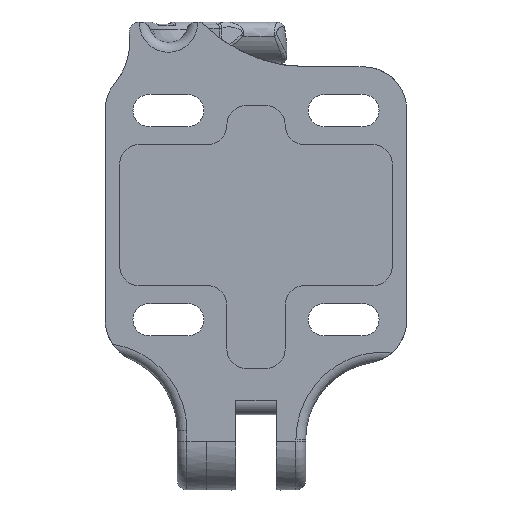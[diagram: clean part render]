
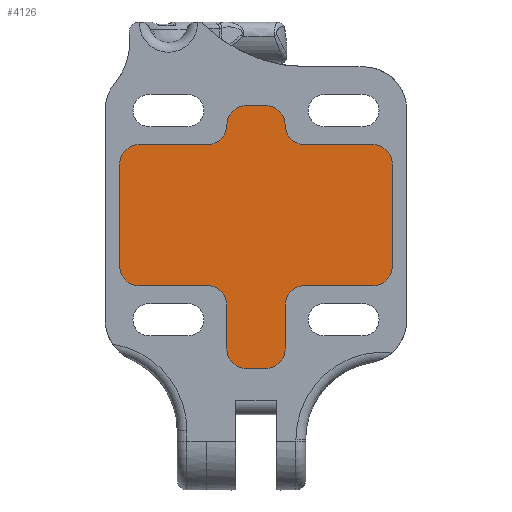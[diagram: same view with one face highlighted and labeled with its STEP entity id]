
A CAD part, front view. The second image highlights one B-rep face of the part: STEP entity #4126.
In plain terms, the highlighted planar face has unit normal (0, -1, 0).
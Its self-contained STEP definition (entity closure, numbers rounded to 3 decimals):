
#3946=AXIS2_PLACEMENT_3D('Plane Axis2P3D',#3943,#3944,#3945) ;
#3950=AXIS2_PLACEMENT_3D('Circle Axis2P3D',#3948,#3949,$) ;
#3966=AXIS2_PLACEMENT_3D('Circle Axis2P3D',#3964,#3965,$) ;
#3973=AXIS2_PLACEMENT_3D('Circle Axis2P3D',#3971,#3972,$) ;
#3987=AXIS2_PLACEMENT_3D('Circle Axis2P3D',#3985,#3986,$) ;
#3994=AXIS2_PLACEMENT_3D('Circle Axis2P3D',#3992,#3993,$) ;
#4008=AXIS2_PLACEMENT_3D('Circle Axis2P3D',#4006,#4007,$) ;
#4022=AXIS2_PLACEMENT_3D('Circle Axis2P3D',#4020,#4021,$) ;
#4036=AXIS2_PLACEMENT_3D('Circle Axis2P3D',#4034,#4035,$) ;
#4050=AXIS2_PLACEMENT_3D('Circle Axis2P3D',#4048,#4049,$) ;
#4064=AXIS2_PLACEMENT_3D('Circle Axis2P3D',#4062,#4063,$) ;
#4078=AXIS2_PLACEMENT_3D('Circle Axis2P3D',#4076,#4077,$) ;
#4092=AXIS2_PLACEMENT_3D('Circle Axis2P3D',#4090,#4091,$) ;
#3943=CARTESIAN_POINT('Axis2P3D Location',(0.,-6.5,0.)) ;
#3948=CARTESIAN_POINT('Axis2P3D Location',(12.,-6.5,28.5)) ;
#3952=CARTESIAN_POINT('Vertex',(14.,-6.5,28.5)) ;
#3954=CARTESIAN_POINT('Vertex',(12.,-6.5,30.5)) ;
#3957=CARTESIAN_POINT('Line Origine',(8.5,-6.5,30.5)) ;
#3961=CARTESIAN_POINT('Vertex',(5.,-6.5,30.5)) ;
#3964=CARTESIAN_POINT('Axis2P3D Location',(5.,-6.5,32.5)) ;
#3968=CARTESIAN_POINT('Vertex',(3.,-6.5,32.5)) ;
#3971=CARTESIAN_POINT('Axis2P3D Location',(1.,-6.5,32.5)) ;
#3975=CARTESIAN_POINT('Vertex',(1.,-6.5,34.5)) ;
#3978=CARTESIAN_POINT('Line Origine',(0.,-6.5,34.5)) ;
#3982=CARTESIAN_POINT('Vertex',(-1.,-6.5,34.5)) ;
#3985=CARTESIAN_POINT('Axis2P3D Location',(-1.,-6.5,32.5)) ;
#3989=CARTESIAN_POINT('Vertex',(-3.,-6.5,32.5)) ;
#3992=CARTESIAN_POINT('Axis2P3D Location',(-5.,-6.5,32.5)) ;
#3996=CARTESIAN_POINT('Vertex',(-5.,-6.5,30.5)) ;
#3999=CARTESIAN_POINT('Line Origine',(-8.5,-6.5,30.5)) ;
#4003=CARTESIAN_POINT('Vertex',(-12.,-6.5,30.5)) ;
#4006=CARTESIAN_POINT('Axis2P3D Location',(-12.,-6.5,28.5)) ;
#4010=CARTESIAN_POINT('Vertex',(-14.,-6.5,28.5)) ;
#4013=CARTESIAN_POINT('Line Origine',(-14.,-6.5,23.25)) ;
#4017=CARTESIAN_POINT('Vertex',(-14.,-6.5,18.)) ;
#4020=CARTESIAN_POINT('Axis2P3D Location',(-12.,-6.5,18.)) ;
#4024=CARTESIAN_POINT('Vertex',(-12.,-6.5,16.)) ;
#4027=CARTESIAN_POINT('Line Origine',(-8.5,-6.5,16.)) ;
#4031=CARTESIAN_POINT('Vertex',(-5.,-6.5,16.)) ;
#4034=CARTESIAN_POINT('Axis2P3D Location',(-5.,-6.5,14.)) ;
#4038=CARTESIAN_POINT('Vertex',(-3.,-6.5,14.)) ;
#4041=CARTESIAN_POINT('Line Origine',(-3.,-6.5,11.75)) ;
#4045=CARTESIAN_POINT('Vertex',(-3.,-6.5,9.5)) ;
#4048=CARTESIAN_POINT('Axis2P3D Location',(-1.,-6.5,9.5)) ;
#4052=CARTESIAN_POINT('Vertex',(-1.,-6.5,7.5)) ;
#4055=CARTESIAN_POINT('Line Origine',(0.,-6.5,7.5)) ;
#4059=CARTESIAN_POINT('Vertex',(1.,-6.5,7.5)) ;
#4062=CARTESIAN_POINT('Axis2P3D Location',(1.,-6.5,9.5)) ;
#4066=CARTESIAN_POINT('Vertex',(3.,-6.5,9.5)) ;
#4069=CARTESIAN_POINT('Line Origine',(3.,-6.5,11.75)) ;
#4073=CARTESIAN_POINT('Vertex',(3.,-6.5,14.)) ;
#4076=CARTESIAN_POINT('Axis2P3D Location',(5.,-6.5,14.)) ;
#4080=CARTESIAN_POINT('Vertex',(5.,-6.5,16.)) ;
#4083=CARTESIAN_POINT('Line Origine',(8.5,-6.5,16.)) ;
#4087=CARTESIAN_POINT('Vertex',(12.,-6.5,16.)) ;
#4090=CARTESIAN_POINT('Axis2P3D Location',(12.,-6.5,18.)) ;
#4094=CARTESIAN_POINT('Vertex',(14.,-6.5,18.)) ;
#4097=CARTESIAN_POINT('Line Origine',(14.,-6.5,23.25)) ;
#3944=DIRECTION('Axis2P3D Direction',(0.,-1.,0.)) ;
#3945=DIRECTION('Axis2P3D XDirection',(1.,0.,0.)) ;
#3949=DIRECTION('Axis2P3D Direction',(0.,-1.,0.)) ;
#3958=DIRECTION('Vector Direction',(1.,0.,0.)) ;
#3965=DIRECTION('Axis2P3D Direction',(0.,-1.,0.)) ;
#3972=DIRECTION('Axis2P3D Direction',(0.,-1.,0.)) ;
#3979=DIRECTION('Vector Direction',(1.,0.,0.)) ;
#3986=DIRECTION('Axis2P3D Direction',(0.,-1.,0.)) ;
#3993=DIRECTION('Axis2P3D Direction',(0.,-1.,0.)) ;
#4000=DIRECTION('Vector Direction',(1.,0.,0.)) ;
#4007=DIRECTION('Axis2P3D Direction',(0.,-1.,0.)) ;
#4014=DIRECTION('Vector Direction',(0.,0.,1.)) ;
#4021=DIRECTION('Axis2P3D Direction',(0.,-1.,0.)) ;
#4028=DIRECTION('Vector Direction',(-1.,0.,0.)) ;
#4035=DIRECTION('Axis2P3D Direction',(0.,-1.,0.)) ;
#4042=DIRECTION('Vector Direction',(0.,0.,1.)) ;
#4049=DIRECTION('Axis2P3D Direction',(0.,-1.,0.)) ;
#4056=DIRECTION('Vector Direction',(-1.,0.,0.)) ;
#4063=DIRECTION('Axis2P3D Direction',(0.,-1.,0.)) ;
#4070=DIRECTION('Vector Direction',(0.,0.,-1.)) ;
#4077=DIRECTION('Axis2P3D Direction',(0.,-1.,0.)) ;
#4084=DIRECTION('Vector Direction',(-1.,0.,0.)) ;
#4091=DIRECTION('Axis2P3D Direction',(0.,-1.,0.)) ;
#4098=DIRECTION('Vector Direction',(0.,0.,-1.)) ;
#3959=VECTOR('Line Direction',#3958,1.) ;
#3980=VECTOR('Line Direction',#3979,1.) ;
#4001=VECTOR('Line Direction',#4000,1.) ;
#4015=VECTOR('Line Direction',#4014,1.) ;
#4029=VECTOR('Line Direction',#4028,1.) ;
#4043=VECTOR('Line Direction',#4042,1.) ;
#4057=VECTOR('Line Direction',#4056,1.) ;
#4071=VECTOR('Line Direction',#4070,1.) ;
#4085=VECTOR('Line Direction',#4084,1.) ;
#4099=VECTOR('Line Direction',#4098,1.) ;
#4103=ORIENTED_EDGE('',*,*,#3956,.T.) ;
#4104=ORIENTED_EDGE('',*,*,#3963,.T.) ;
#4105=ORIENTED_EDGE('',*,*,#3970,.T.) ;
#4106=ORIENTED_EDGE('',*,*,#3977,.T.) ;
#4107=ORIENTED_EDGE('',*,*,#3984,.T.) ;
#4108=ORIENTED_EDGE('',*,*,#3991,.T.) ;
#4109=ORIENTED_EDGE('',*,*,#3998,.T.) ;
#4110=ORIENTED_EDGE('',*,*,#4005,.T.) ;
#4111=ORIENTED_EDGE('',*,*,#4012,.T.) ;
#4112=ORIENTED_EDGE('',*,*,#4019,.T.) ;
#4113=ORIENTED_EDGE('',*,*,#4026,.T.) ;
#4114=ORIENTED_EDGE('',*,*,#4033,.T.) ;
#4115=ORIENTED_EDGE('',*,*,#4040,.T.) ;
#4116=ORIENTED_EDGE('',*,*,#4047,.T.) ;
#4117=ORIENTED_EDGE('',*,*,#4054,.T.) ;
#4118=ORIENTED_EDGE('',*,*,#4061,.T.) ;
#4119=ORIENTED_EDGE('',*,*,#4068,.T.) ;
#4120=ORIENTED_EDGE('',*,*,#4075,.T.) ;
#4121=ORIENTED_EDGE('',*,*,#4082,.T.) ;
#4122=ORIENTED_EDGE('',*,*,#4089,.T.) ;
#4123=ORIENTED_EDGE('',*,*,#4096,.T.) ;
#4124=ORIENTED_EDGE('',*,*,#4101,.T.) ;
#4126=ADVANCED_FACE('v3_Inserti_SX',(#4125),#3947,.T.) ;
#3951=CIRCLE('generated circle',#3950,2.) ;
#3967=CIRCLE('generated circle',#3966,2.) ;
#3974=CIRCLE('generated circle',#3973,2.) ;
#3988=CIRCLE('generated circle',#3987,2.) ;
#3995=CIRCLE('generated circle',#3994,2.) ;
#4009=CIRCLE('generated circle',#4008,2.) ;
#4023=CIRCLE('generated circle',#4022,2.) ;
#4037=CIRCLE('generated circle',#4036,2.) ;
#4051=CIRCLE('generated circle',#4050,2.) ;
#4065=CIRCLE('generated circle',#4064,2.) ;
#4079=CIRCLE('generated circle',#4078,2.) ;
#4093=CIRCLE('generated circle',#4092,2.) ;
#3956=EDGE_CURVE('',#3953,#3955,#3951,.T.) ;
#3963=EDGE_CURVE('',#3955,#3962,#3960,.F.) ;
#3970=EDGE_CURVE('',#3962,#3969,#3967,.F.) ;
#3977=EDGE_CURVE('',#3969,#3976,#3974,.T.) ;
#3984=EDGE_CURVE('',#3976,#3983,#3981,.F.) ;
#3991=EDGE_CURVE('',#3983,#3990,#3988,.T.) ;
#3998=EDGE_CURVE('',#3990,#3997,#3995,.F.) ;
#4005=EDGE_CURVE('',#3997,#4004,#4002,.F.) ;
#4012=EDGE_CURVE('',#4004,#4011,#4009,.T.) ;
#4019=EDGE_CURVE('',#4011,#4018,#4016,.F.) ;
#4026=EDGE_CURVE('',#4018,#4025,#4023,.T.) ;
#4033=EDGE_CURVE('',#4025,#4032,#4030,.F.) ;
#4040=EDGE_CURVE('',#4032,#4039,#4037,.F.) ;
#4047=EDGE_CURVE('',#4039,#4046,#4044,.F.) ;
#4054=EDGE_CURVE('',#4046,#4053,#4051,.T.) ;
#4061=EDGE_CURVE('',#4053,#4060,#4058,.F.) ;
#4068=EDGE_CURVE('',#4060,#4067,#4065,.T.) ;
#4075=EDGE_CURVE('',#4067,#4074,#4072,.F.) ;
#4082=EDGE_CURVE('',#4074,#4081,#4079,.F.) ;
#4089=EDGE_CURVE('',#4081,#4088,#4086,.F.) ;
#4096=EDGE_CURVE('',#4088,#4095,#4093,.T.) ;
#4101=EDGE_CURVE('',#4095,#3953,#4100,.F.) ;
#4102=EDGE_LOOP('',(#4103,#4104,#4105,#4106,#4107,#4108,#4109,#4110,#4111,#4112,#4113,#4114,#4115,#4116,#4117,#4118,#4119,#4120,#4121,#4122,#4123,#4124)) ;
#4125=FACE_OUTER_BOUND('',#4102,.T.) ;
#3960=LINE('Line',#3957,#3959) ;
#3981=LINE('Line',#3978,#3980) ;
#4002=LINE('Line',#3999,#4001) ;
#4016=LINE('Line',#4013,#4015) ;
#4030=LINE('Line',#4027,#4029) ;
#4044=LINE('Line',#4041,#4043) ;
#4058=LINE('Line',#4055,#4057) ;
#4072=LINE('Line',#4069,#4071) ;
#4086=LINE('Line',#4083,#4085) ;
#4100=LINE('Line',#4097,#4099) ;
#3947=PLANE('',#3946) ;
#3953=VERTEX_POINT('',#3952) ;
#3955=VERTEX_POINT('',#3954) ;
#3962=VERTEX_POINT('',#3961) ;
#3969=VERTEX_POINT('',#3968) ;
#3976=VERTEX_POINT('',#3975) ;
#3983=VERTEX_POINT('',#3982) ;
#3990=VERTEX_POINT('',#3989) ;
#3997=VERTEX_POINT('',#3996) ;
#4004=VERTEX_POINT('',#4003) ;
#4011=VERTEX_POINT('',#4010) ;
#4018=VERTEX_POINT('',#4017) ;
#4025=VERTEX_POINT('',#4024) ;
#4032=VERTEX_POINT('',#4031) ;
#4039=VERTEX_POINT('',#4038) ;
#4046=VERTEX_POINT('',#4045) ;
#4053=VERTEX_POINT('',#4052) ;
#4060=VERTEX_POINT('',#4059) ;
#4067=VERTEX_POINT('',#4066) ;
#4074=VERTEX_POINT('',#4073) ;
#4081=VERTEX_POINT('',#4080) ;
#4088=VERTEX_POINT('',#4087) ;
#4095=VERTEX_POINT('',#4094) ;
